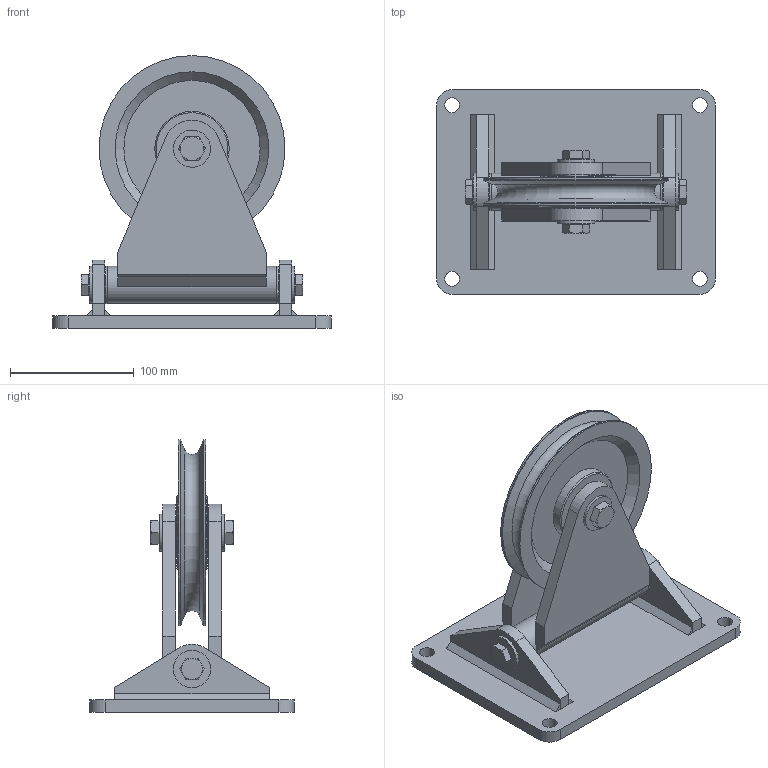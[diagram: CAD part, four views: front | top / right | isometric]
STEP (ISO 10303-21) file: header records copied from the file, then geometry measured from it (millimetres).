
FILE_DESCRIPTION(/* description */ ('Seilrolle ø150 einfach Schwenkbar SE 150 G'),/* implementation_level */ '2;1');
FILE_NAME(/* name */ 'Z:\Workspace\03 Seilrollen\1.409 Seilrollen einfach schwenkbar Gleitlager\1.409.02 Seilrolle ø150 einfach schwenkbar SE 150 G\1.409.02 Seilrolle ø150 einfach Schwenkbar SE 150 G.stp',/* time_stamp */ '2021-10-11T14:40:19+02:00',/* author */ ('cad-user'),/* organization */ (''),/* preprocessor_version */ 'ST-DEVELOPER v18',/* originating_system */ 'Autodesk Inventor 2020',/* authorisation */ '');
FILE_SCHEMA (('AUTOMOTIVE_DESIGN { 1 0 10303 214 3 1 1 }'));
Length unit declared in the file: millimetre
Products named in the file (19): 1.409.02 Seilrolle ø150 einfach Schwenkbar SE 150 G; 1.409.02.01 Konsole Schweißteil; 1.409.02.01 Konsole Schweißteil_1; 1.409.02.02 Platte 1; 1.409.02.03 Platte 2; 1.409.02.06  Schwenkkonsole Schweißteil; 1.409.02.06  Schwenkkonsole Schweißteil_1; 1.409.02.05 Rohr; 1.409.02.04 Platte 3; 1.409.02.04 Platte 3_1; 1.409.02.08 Achse 2; BB2022DU; 1.401.05 Seilrolle ø150 Buchse komplett ; 1.401.05 Seilrolle ø150 Buchse ; Lagerbuchse 2025-DU; DIN 9021 - 10,5; DIN 933 - M10  x 25; 1.405.05.02 Achse; DIN 933 - M12  x 25
Assembly tree (25 placements, depth 3):
  1.409.02 Seilrolle ø150 einfach Schwenkbar SE 150 G
    1.409.02.01 Konsole Schweißteil
      1.409.02.01 Konsole Schweißteil_1
      1.409.02.02 Platte 1
      1.409.02.03 Platte 2  x2
    1.409.02.06  Schwenkkonsole Schweißteil
      1.409.02.06  Schwenkkonsole Schweißteil_1
      1.409.02.05 Rohr
      1.409.02.04 Platte 3
      1.409.02.04 Platte 3_1
    1.409.02.08 Achse 2
    BB2022DU  x2
    1.401.05 Seilrolle ø150 Buchse komplett 
      1.401.05 Seilrolle ø150 Buchse 
      Lagerbuchse 2025-DU
    DIN 9021 - 10,5  x4
    DIN 933 - M10  x 25  x2
    1.405.05.02 Achse
    DIN 933 - M12  x 25  x2
Bounding box: 225 x 165 x 220 mm (x, y, z)
Volume: 981970.3 mm3; surface area: 286835 mm2
Topology: 26 solids, 26 shells, 258 faces, 586 edges, 392 vertices
Faces by surface type: plane 144, cylinder 61, cone 46, torus 7
Full cylindrical faces by diameter (mm): 8.376 x2, 9.188 x2, 10 x2, 10.106 x1, 10.5 x4, 11.053 x2, 12 x6, 13 x2, 15.4 x2, 17.2 x2, 20 x4, 22 x1, 23 x3, 30 x5, 60 x2, 150 x2
Entity records: 6021 total; most frequent: CARTESIAN_POINT 1020, DIRECTION 1008, ORIENTED_EDGE 832, EDGE_CURVE 416, AXIS2_PLACEMENT_3D 398, VERTEX_POINT 282, EDGE_LOOP 216, LINE 212
